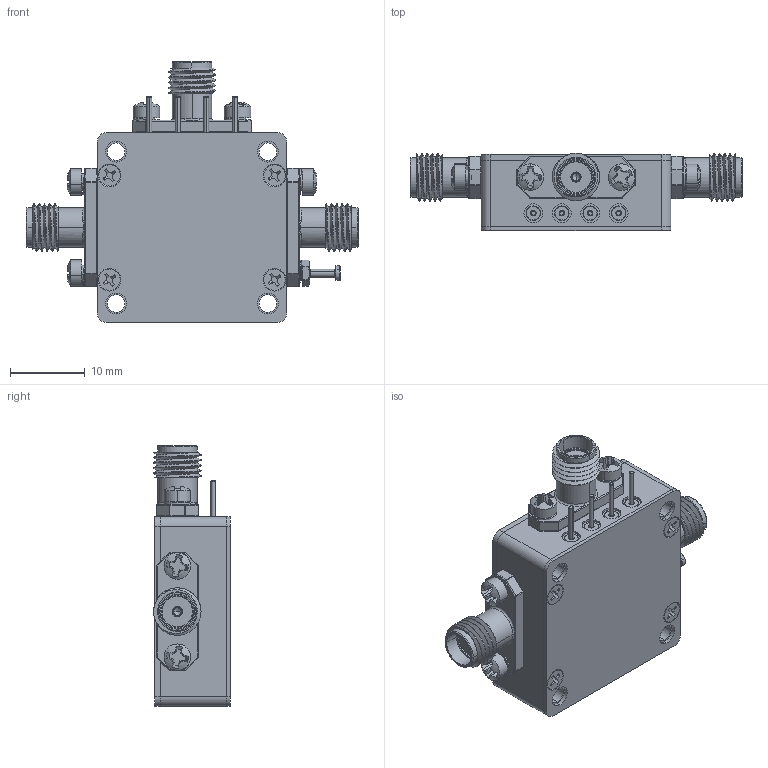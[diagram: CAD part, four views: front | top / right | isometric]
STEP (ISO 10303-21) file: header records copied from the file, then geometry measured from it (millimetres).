
FILE_DESCRIPTION (( 'STEP AP203' ), '1' );
FILE_NAME ('P2T-500M18G-80-T-515-SFF-4W.STEP', '2019-03-04T14:56:11', ( 'PMI' ), ( 'Microsoft' ), 'SwSTEP 2.0', 'SolidWorks 2014', '' );
FILE_SCHEMA (( 'CONFIG_CONTROL_DESIGN' ));
Length unit declared in the file: inch
Products named in the file (10): PL080-SW SPU_92147A111; PL080-PXXF SPU_0.09375; 26124524 - HousingWEB; P2T-500M18G-80-T-515-SFF-4W; 26224525 - RF Cover; 26224526 - Driver Cover; PL75-055_91737A047; PL75-059 DC Feedthru 25-Mil-Pin OD-.076 BL-.040 MDH_TL-156-02; 2-56 Phillips Fillister Screw -  0.1875 Inch_91737A047; PL80-099 SMA 12-Mil-Pin .625 FLANG .481 MOUNT CONNECTOR MDH_SCREW REMOVED
Assembly tree (38 placements, depth 2):
  P2T-500M18G-80-T-515-SFF-4W
    26124524 - HousingWEB
    26224525 - RF Cover
    26224526 - Driver Cover
    PL75-055_91737A047
    PL75-059 DC Feedthru 25-Mil-Pin OD-.076 BL-.040 MDH_TL-156-02  x4
    2-56 Phillips Fillister Screw -  0.1875 Inch_91737A047  x5
    PL80-099 SMA 12-Mil-Pin .625 FLANG .481 MOUNT CONNECTOR MDH_SCREW REMOVED  x3
    PL080-SW SPU_92147A111  x6
    PL080-PXXF SPU_0.09375  x16
Bounding box: 44.45 x 10.29 x 34.92 mm (x, y, z)
Volume: 7234 mm3; surface area: 8063.8 mm2
Topology: 44 solids, 44 shells, 1505 faces, 3632 edges, 2162 vertices
Faces by surface type: plane 526, cylinder 437, cone 223, torus 183, sphere 85, bspline 51
Entity records: 21069 total; most frequent: CARTESIAN_POINT 5491, DIRECTION 3154, ORIENTED_EDGE 2680, EDGE_CURVE 1340, AXIS2_PLACEMENT_3D 1339, VERTEX_POINT 813, CIRCLE 720, EDGE_LOOP 715
